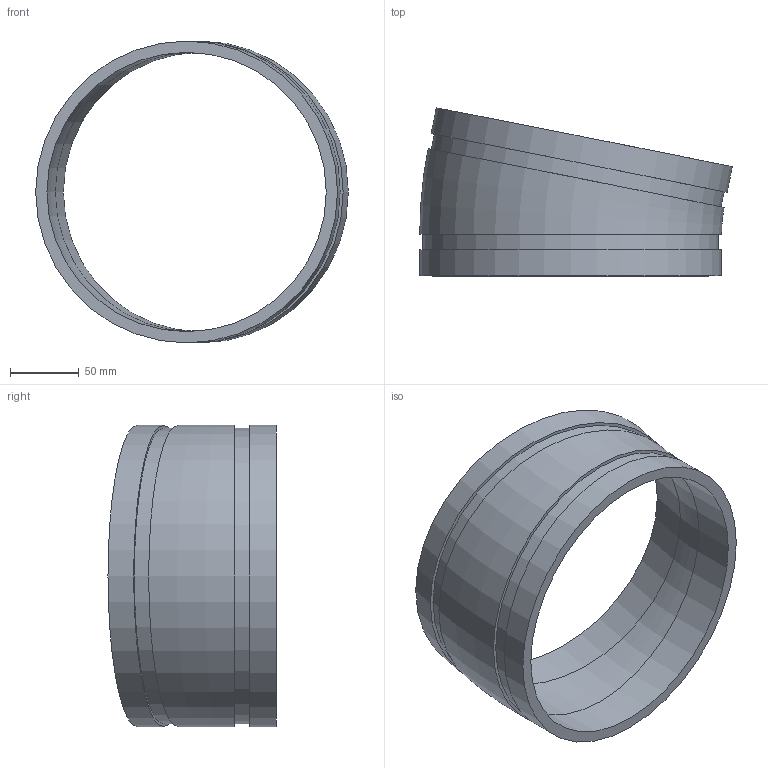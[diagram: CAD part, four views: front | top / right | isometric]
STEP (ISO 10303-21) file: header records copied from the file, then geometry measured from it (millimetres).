
FILE_DESCRIPTION(/* description */ ('VIC 11-1/4 DEG. ELBOW No 13','CAx-IF Rec.Pracs.---Representation and Presentation of Product Manufacturing Information (PMI)---4.0---2014-10-13'),/* implementation_level */ '2;1');
FILE_NAME(/* name */ 'C:\Users\kkamble\AppData\Roaming\Autodesk\ApplicationPlugins\Back Up\Victaulic_IPS_Elbow 11.25 Deg_No 13 (OGS)\Victaulic_IPS_Elbow 11.25 Deg_No 13 (OGS)_8 (200).stp',/* time_stamp */ '2020-07-24T08:09:25+06:00',/* author */ ('CONSTRUCTION PIPING SERVICES'),/* organization */ ('Victaulic'),/* preprocessor_version */ 'ST-DEVELOPER v17.2',/* originating_system */ 'Autodesk Inventor 2019',/* authorisation */ '');
FILE_SCHEMA (('AP242_MANAGED_MODEL_BASED_3D_ENGINEERING_MIM_LF { 1 0 10303 442 1 1 4 }'));
Length unit declared in the file: inch
Products named in the file (1): 013-08.0
Bounding box: 226.88 x 121.99 x 219.07 mm (x, y, z)
Volume: 514434.6 mm3; surface area: 151330 mm2
Topology: 1 solids, 1 shells, 14 faces, 32 edges, 24 vertices
Faces by surface type: plane 6, cylinder 6, torus 2
Full cylindrical faces by diameter (mm): 202.717 x2, 214.401 x2, 219.075 x2
Entity records: 487 total; most frequent: DIRECTION 88, CARTESIAN_POINT 71, ORIENTED_EDGE 64, AXIS2_PLACEMENT_3D 41, EDGE_CURVE 32, CIRCLE 26, VERTEX_POINT 24, EDGE_LOOP 20
